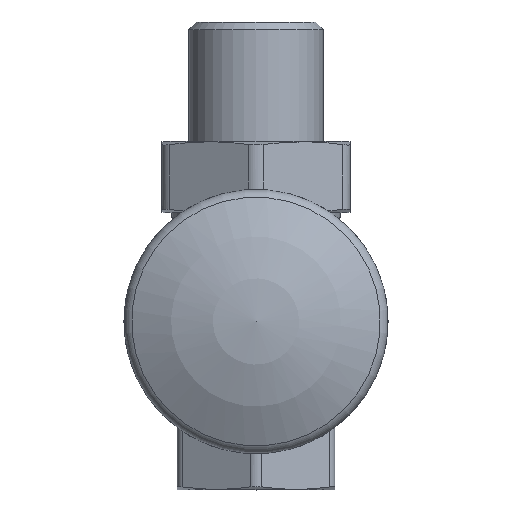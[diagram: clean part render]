
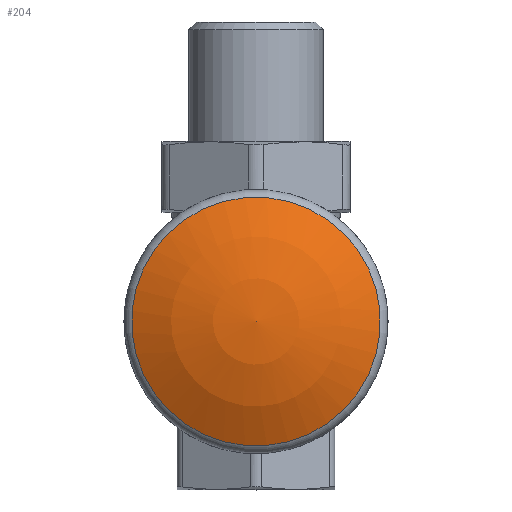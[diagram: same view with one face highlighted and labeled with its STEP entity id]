
A CAD part, top view. The second image highlights one B-rep face of the part: STEP entity #204.
In plain terms, the highlighted spherical face has radius 50 mm.
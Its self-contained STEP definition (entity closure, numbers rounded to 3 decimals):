
#204=ADVANCED_FACE('',(#1404),#1406,.T.);
#1404=FACE_BOUND('',#1405,.T.);
#1405=EDGE_LOOP('',(#2383,#2384,#2385));
#1406=SPHERICAL_SURFACE('',#1407,50.);
#1407=AXIS2_PLACEMENT_3D('',#1408,#1409,#1410);
#1408=CARTESIAN_POINT('',(0.,0.,22.6));
#1409=DIRECTION('',(0.,0.,1.));
#1410=DIRECTION('',(0.707,-0.707,0.));
#2383=ORIENTED_EDGE('',*,*,#2792,.T.);
#2384=ORIENTED_EDGE('',*,*,#2793,.F.);
#2385=ORIENTED_EDGE('',*,*,#2793,.T.);
#2792=EDGE_CURVE('',#3481,#3481,#3482,.T.);
#2793=EDGE_CURVE('',#3483,#3481,#3484,.T.);
#3481=VERTEX_POINT('',#8551);
#3482=CIRCLE('',#8552,24.479);
#3483=VERTEX_POINT('',#8556);
#3484=CIRCLE('',#8557,50.);
#8551=CARTESIAN_POINT('',(17.31,-17.31,66.198));
#8552=AXIS2_PLACEMENT_3D('',#8553,#8554,#8555);
#8553=CARTESIAN_POINT('',(0.,0.,66.198));
#8554=DIRECTION('',(0.,0.,1.));
#8555=DIRECTION('',(0.707,-0.707,0.));
#8556=CARTESIAN_POINT('',(0.,0.,72.6));
#8557=AXIS2_PLACEMENT_3D('',#8558,#8559,#8560);
#8558=CARTESIAN_POINT('',(0.,0.,22.6));
#8559=DIRECTION('',(0.707,0.707,0.));
#8560=DIRECTION('',(0.,0.,1.));
